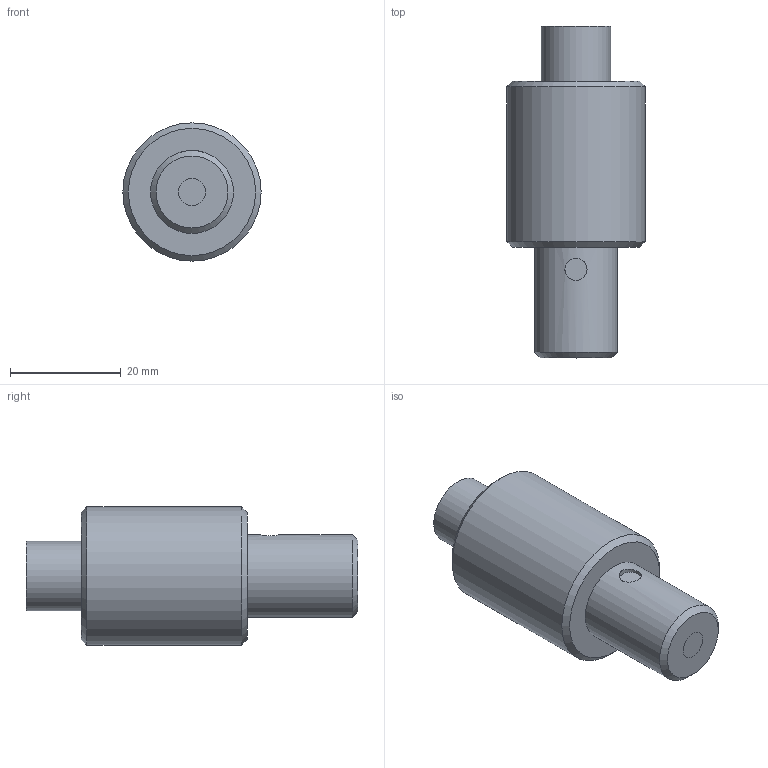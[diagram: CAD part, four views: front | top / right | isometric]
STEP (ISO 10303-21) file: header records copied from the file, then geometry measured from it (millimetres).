
FILE_DESCRIPTION(/* description */ (''),/* implementation_level */ '2;1');
FILE_NAME(/* name */ '',/* time_stamp */ '2023-01-13T11:50:33+09:00',/* author */ (''),/* organization */ (''),/* preprocessor_version */ 'ST-DEVELOPER v19.2',/* originating_system */ 'Autodesk Translation Framework v11.17.0.187',/* authorisation */ '');
FILE_SCHEMA (('AUTOMOTIVE_DESIGN { 1 0 10303 214 3 1 1 }'));
Length unit declared in the file: millimetre
Products named in the file (1): LGA1-5L500N 受光部
Bounding box: 25 x 60 x 25 mm (x, y, z)
Volume: 19379.5 mm3; surface area: 6649 mm2
Topology: 3 solids, 3 shells, 18 faces, 29 edges, 19 vertices
Faces by surface type: plane 8, cylinder 7, cone 3
Full cylindrical faces by diameter (mm): 4 x1, 5 x3, 12.5 x1, 15 x1, 25 x1
Entity records: 489 total; most frequent: CARTESIAN_POINT 102, DIRECTION 80, ORIENTED_EDGE 58, AXIS2_PLACEMENT_3D 35, EDGE_CURVE 29, EDGE_LOOP 24, VERTEX_POINT 19, FACE_OUTER_BOUND 18
